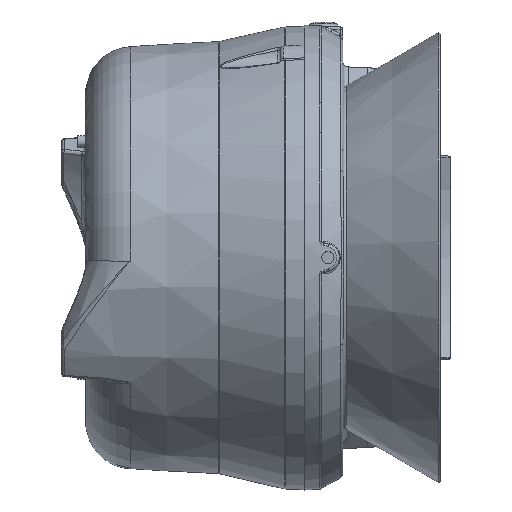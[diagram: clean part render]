
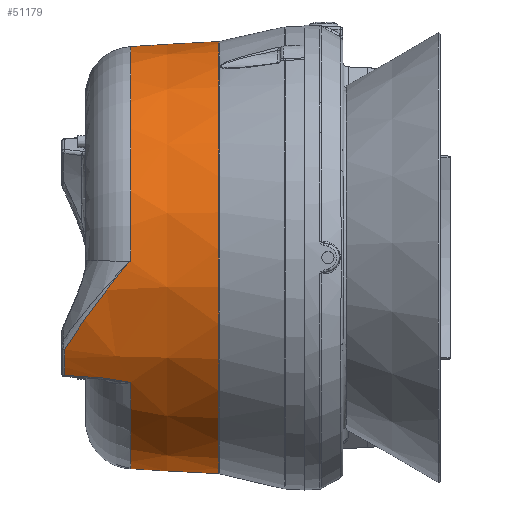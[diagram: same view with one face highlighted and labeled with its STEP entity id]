
A CAD part, left-side view. The second image highlights one B-rep face of the part: STEP entity #51179.
In plain terms, the highlighted conical face has half-angle 3 degrees and reference radius 56.93 mm.
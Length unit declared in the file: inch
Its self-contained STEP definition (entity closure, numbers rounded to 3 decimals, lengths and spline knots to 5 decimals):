
#644=CONICAL_SURFACE('',#55610,2.24134,3.);
#1546=B_SPLINE_CURVE_WITH_KNOTS('',3,(#93092,#93093,#93094,#93095,#93096,
#93097,#93098,#93099,#93100,#93101),.UNSPECIFIED.,.F.,.F.,(4,1,1,1,1,1,
1,4),(0.04485,1.74771,2.59915,2.812,
2.91843,2.97165,2.99826,3.02486),
 .UNSPECIFIED.);
#1549=B_SPLINE_CURVE_WITH_KNOTS('',3,(#93159,#93160,#93161,#93162),
 .UNSPECIFIED.,.F.,.F.,(4,4),(0.,1.03122),.UNSPECIFIED.);
#1550=B_SPLINE_CURVE_WITH_KNOTS('',3,(#93164,#93165,#93166,#93167,#93168,
#93169,#93170,#93171),.UNSPECIFIED.,.F.,.F.,(4,2,1,1,4),(-0.00041,
0.,0.29708,0.44562,0.7427),.UNSPECIFIED.);
#1551=B_SPLINE_CURVE_WITH_KNOTS('',3,(#93175,#93176,#93177,#93178,#93179,
#93180,#93181,#93182,#93183,#93184),.UNSPECIFIED.,.F.,.F.,(4,1,1,1,1,1,
1,4),(0.04485,1.74771,2.59915,2.812,
2.91843,2.97165,2.99826,3.02486),
 .UNSPECIFIED.);
#1552=B_SPLINE_CURVE_WITH_KNOTS('',3,(#93188,#93189,#93190,#93191),
 .UNSPECIFIED.,.F.,.F.,(4,4),(0.,1.03122),.UNSPECIFIED.);
#1553=B_SPLINE_CURVE_WITH_KNOTS('',3,(#93193,#93194,#93195,#93196,#93197,
#93198,#93199,#93200),.UNSPECIFIED.,.F.,.F.,(4,2,1,1,4),(-0.00041,
0.,0.29708,0.44562,0.7427),.UNSPECIFIED.);
#13222=FACE_BOUND('',#19289,.T.);
#16012=FACE_OUTER_BOUND('',#19288,.T.);
#19288=EDGE_LOOP('',(#47158,#47159,#47160,#47161,#47162,#47163,#47164,#47165,
#47166,#47167));
#19289=EDGE_LOOP('',(#47168));
#20994=CIRCLE('',#55605,2.18088);
#20998=CIRCLE('',#55611,2.21723);
#20999=CIRCLE('',#55612,2.18088);
#21000=CIRCLE('',#55613,2.21723);
#21001=CIRCLE('',#55614,2.26544);
#25724=VERTEX_POINT('',#92903);
#25727=VERTEX_POINT('',#92908);
#25734=VERTEX_POINT('',#93091);
#25736=VERTEX_POINT('',#93158);
#25737=VERTEX_POINT('',#93163);
#25738=VERTEX_POINT('',#93172);
#25739=VERTEX_POINT('',#93174);
#25740=VERTEX_POINT('',#93185);
#25741=VERTEX_POINT('',#93187);
#25742=VERTEX_POINT('',#93192);
#25743=VERTEX_POINT('',#93202);
#32875=EDGE_CURVE('',#25727,#25724,#20994,.T.);
#32886=EDGE_CURVE('',#25724,#25734,#1546,.T.);
#32889=EDGE_CURVE('',#25736,#25727,#1549,.T.);
#32890=EDGE_CURVE('',#25737,#25736,#1550,.T.);
#32891=EDGE_CURVE('',#25737,#25738,#20998,.T.);
#32892=EDGE_CURVE('',#25739,#25738,#1551,.T.);
#32893=EDGE_CURVE('',#25740,#25739,#20999,.T.);
#32894=EDGE_CURVE('',#25741,#25740,#1552,.T.);
#32895=EDGE_CURVE('',#25742,#25741,#1553,.T.);
#32896=EDGE_CURVE('',#25742,#25734,#21000,.T.);
#32897=EDGE_CURVE('',#25743,#25743,#21001,.T.);
#47158=ORIENTED_EDGE('',*,*,#32875,.F.);
#47159=ORIENTED_EDGE('',*,*,#32889,.F.);
#47160=ORIENTED_EDGE('',*,*,#32890,.F.);
#47161=ORIENTED_EDGE('',*,*,#32891,.T.);
#47162=ORIENTED_EDGE('',*,*,#32892,.F.);
#47163=ORIENTED_EDGE('',*,*,#32893,.F.);
#47164=ORIENTED_EDGE('',*,*,#32894,.F.);
#47165=ORIENTED_EDGE('',*,*,#32895,.F.);
#47166=ORIENTED_EDGE('',*,*,#32896,.T.);
#47167=ORIENTED_EDGE('',*,*,#32886,.F.);
#47168=ORIENTED_EDGE('',*,*,#32897,.F.);
#51179=ADVANCED_FACE('',(#16012,#13222),#644,.T.);
#55605=AXIS2_PLACEMENT_3D('',#92910,#69057,#69058);
#55610=AXIS2_PLACEMENT_3D('',#93157,#69067,#69068);
#55611=AXIS2_PLACEMENT_3D('',#93173,#69069,#69070);
#55612=AXIS2_PLACEMENT_3D('',#93186,#69071,#69072);
#55613=AXIS2_PLACEMENT_3D('',#93201,#69073,#69074);
#55614=AXIS2_PLACEMENT_3D('',#93203,#69075,#69076);
#69057=DIRECTION('center_axis',(0.,1.,0.));
#69058=DIRECTION('ref_axis',(0.999,0.,0.054));
#69067=DIRECTION('center_axis',(0.,-1.,0.));
#69068=DIRECTION('ref_axis',(1.,0.,0.));
#69069=DIRECTION('center_axis',(0.,-1.,0.));
#69070=DIRECTION('ref_axis',(1.,0.,0.));
#69071=DIRECTION('center_axis',(0.,1.,0.));
#69072=DIRECTION('ref_axis',(-0.999,0.,-0.054));
#69073=DIRECTION('center_axis',(0.,-1.,0.));
#69074=DIRECTION('ref_axis',(1.,0.,0.));
#69075=DIRECTION('center_axis',(0.,-1.,0.));
#69076=DIRECTION('ref_axis',(1.,0.,0.));
#92903=CARTESIAN_POINT('',(2.1799,2.54367,-0.06542));
#92908=CARTESIAN_POINT('',(2.16689,2.54367,0.24668));
#92910=CARTESIAN_POINT('Origin',(0.,2.54367,
0.));
#93091=CARTESIAN_POINT('',(1.97584,1.85017,-1.00606));
#93092=CARTESIAN_POINT('Ctrl Pts',(2.1799,2.54367,-0.06542));
#93093=CARTESIAN_POINT('Ctrl Pts',(2.17952,2.43564,-0.26676));
#93094=CARTESIAN_POINT('Ctrl Pts',(2.1403,2.24108,-0.54953));
#93095=CARTESIAN_POINT('Ctrl Pts',(2.04963,2.01733,-0.82886));
#93096=CARTESIAN_POINT('Ctrl Pts',(2.00308,1.91928,-0.94263));
#93097=CARTESIAN_POINT('Ctrl Pts',(1.9881,1.8875,-0.97728));
#93098=CARTESIAN_POINT('Ctrl Pts',(1.98079,1.87059,-0.99391));
#93099=CARTESIAN_POINT('Ctrl Pts',(1.97712,1.8599,-1.00243));
#93100=CARTESIAN_POINT('Ctrl Pts',(1.97572,1.85366,-1.0059));
#93101=CARTESIAN_POINT('Ctrl Pts',(1.97584,1.85017,-1.00606));
#93157=CARTESIAN_POINT('Origin',(0.,1.39027,0.));
#93158=CARTESIAN_POINT('',(2.18564,2.13871,0.26881));
#93159=CARTESIAN_POINT('Ctrl Pts',(2.18564,2.13871,0.26881));
#93160=CARTESIAN_POINT('Ctrl Pts',(2.17941,2.2737,0.26153));
#93161=CARTESIAN_POINT('Ctrl Pts',(2.17316,2.40869,0.25414));
#93162=CARTESIAN_POINT('Ctrl Pts',(2.16689,2.54367,0.24668));
#93163=CARTESIAN_POINT('',(2.1945,1.85017,0.31669));
#93164=CARTESIAN_POINT('Ctrl Pts',(2.1945,1.85017,0.31669));
#93165=CARTESIAN_POINT('Ctrl Pts',(2.1945,1.85022,0.31668));
#93166=CARTESIAN_POINT('Ctrl Pts',(2.19449,1.85028,0.31668));
#93167=CARTESIAN_POINT('Ctrl Pts',(2.19323,1.88892,0.31126));
#93168=CARTESIAN_POINT('Ctrl Pts',(2.19138,1.94685,0.30263));
#93169=CARTESIAN_POINT('Ctrl Pts',(2.18889,2.04234,0.28362));
#93170=CARTESIAN_POINT('Ctrl Pts',(2.18744,2.09982,0.2709));
#93171=CARTESIAN_POINT('Ctrl Pts',(2.18564,2.13871,0.26881));
#93172=CARTESIAN_POINT('',(-1.97584,1.85017,1.00606));
#93173=CARTESIAN_POINT('Origin',(0.,1.85017,0.));
#93174=CARTESIAN_POINT('',(-2.1799,2.54367,0.06542));
#93175=CARTESIAN_POINT('Ctrl Pts',(-2.1799,2.54367,0.06542));
#93176=CARTESIAN_POINT('Ctrl Pts',(-2.17952,2.43564,0.26676));
#93177=CARTESIAN_POINT('Ctrl Pts',(-2.1403,2.24108,0.54953));
#93178=CARTESIAN_POINT('Ctrl Pts',(-2.04963,2.01733,0.82886));
#93179=CARTESIAN_POINT('Ctrl Pts',(-2.00308,1.91928,0.94263));
#93180=CARTESIAN_POINT('Ctrl Pts',(-1.9881,1.8875,0.97728));
#93181=CARTESIAN_POINT('Ctrl Pts',(-1.98079,1.87059,0.99391));
#93182=CARTESIAN_POINT('Ctrl Pts',(-1.97712,1.8599,1.00243));
#93183=CARTESIAN_POINT('Ctrl Pts',(-1.97572,1.85366,1.0059));
#93184=CARTESIAN_POINT('Ctrl Pts',(-1.97584,1.85017,1.00606));
#93185=CARTESIAN_POINT('',(-2.16689,2.54367,-0.24668));
#93186=CARTESIAN_POINT('Origin',(0.,2.54367,
0.));
#93187=CARTESIAN_POINT('',(-2.18564,2.13871,-0.26881));
#93188=CARTESIAN_POINT('Ctrl Pts',(-2.18564,2.13871,-0.26881));
#93189=CARTESIAN_POINT('Ctrl Pts',(-2.17941,2.2737,-0.26153));
#93190=CARTESIAN_POINT('Ctrl Pts',(-2.17316,2.40869,-0.25414));
#93191=CARTESIAN_POINT('Ctrl Pts',(-2.16689,2.54367,-0.24668));
#93192=CARTESIAN_POINT('',(-2.1945,1.85017,-0.31669));
#93193=CARTESIAN_POINT('Ctrl Pts',(-2.1945,1.85017,-0.31669));
#93194=CARTESIAN_POINT('Ctrl Pts',(-2.1945,1.85022,-0.31668));
#93195=CARTESIAN_POINT('Ctrl Pts',(-2.19449,1.85028,-0.31668));
#93196=CARTESIAN_POINT('Ctrl Pts',(-2.19323,1.88892,-0.31126));
#93197=CARTESIAN_POINT('Ctrl Pts',(-2.19138,1.94685,-0.30263));
#93198=CARTESIAN_POINT('Ctrl Pts',(-2.18889,2.04234,-0.28362));
#93199=CARTESIAN_POINT('Ctrl Pts',(-2.18744,2.09982,-0.2709));
#93200=CARTESIAN_POINT('Ctrl Pts',(-2.18564,2.13871,-0.26881));
#93201=CARTESIAN_POINT('Origin',(0.,1.85017,0.));
#93202=CARTESIAN_POINT('',(2.26544,0.93038,0.));
#93203=CARTESIAN_POINT('Origin',(0.,0.93038,0.));
